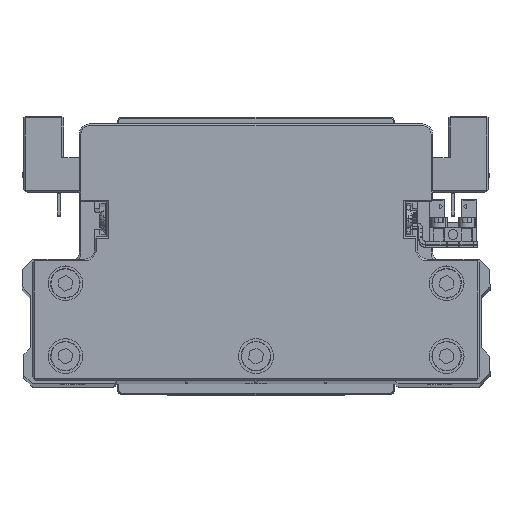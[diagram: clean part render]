
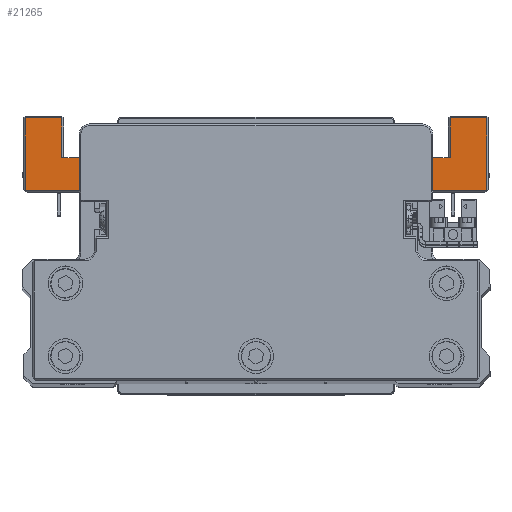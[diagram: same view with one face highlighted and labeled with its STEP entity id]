
A CAD part, top view. The second image highlights one B-rep face of the part: STEP entity #21265.
In plain terms, the highlighted planar face has unit normal (0, 0, 1) as drawn and (0, -1, 0) by its records, which use the part's own axes.
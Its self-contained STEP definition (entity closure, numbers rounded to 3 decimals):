
#23 = DIRECTION ( 'NONE',  ( 0., 0., -1. ) ) ;
#481 = CARTESIAN_POINT ( 'NONE',  ( 46., -45., -54. ) ) ;
#905 = VERTEX_POINT ( 'NONE', #25788 ) ;
#1031 = VERTEX_POINT ( 'NONE', #20502 ) ;
#1232 = CARTESIAN_POINT ( 'NONE',  ( -77.786, -45., -42.5 ) ) ;
#1510 = VECTOR ( 'NONE', #32212, 1000. ) ;
#2100 = DIRECTION ( 'NONE',  ( 0., 1., 0. ) ) ;
#2224 = AXIS2_PLACEMENT_3D ( 'NONE', #30820, #3157, #15468 ) ;
#2385 = LINE ( 'NONE', #14690, #35366 ) ;
#2461 = CARTESIAN_POINT ( 'NONE',  ( -56., -45., -52.5 ) ) ;
#2729 = ORIENTED_EDGE ( 'NONE', *, *, #20763, .T. ) ;
#3029 = EDGE_CURVE ( 'NONE', #36922, #20730, #37058, .T. ) ;
#3157 = DIRECTION ( 'NONE',  ( 0., -1., 0. ) ) ;
#4028 = ORIENTED_EDGE ( 'NONE', *, *, #38772, .T. ) ;
#4515 = DIRECTION ( 'NONE',  ( 0., 1., 0. ) ) ;
#4936 = VERTEX_POINT ( 'NONE', #29328 ) ;
#5325 = EDGE_CURVE ( 'NONE', #18109, #33583, #28894, .T. ) ;
#5372 = LINE ( 'NONE', #17681, #32097 ) ;
#6176 = FACE_OUTER_BOUND ( 'NONE', #31058, .T. ) ;
#6279 = AXIS2_PLACEMENT_3D ( 'NONE', #29762, #2100, #14388 ) ;
#6932 = CARTESIAN_POINT ( 'NONE',  ( 56., -45., -52.5 ) ) ;
#7072 = VECTOR ( 'NONE', #22828, 1000. ) ;
#7320 = CARTESIAN_POINT ( 'NONE',  ( -56., -45., -64. ) ) ;
#7396 = CARTESIAN_POINT ( 'NONE',  ( 39.868, -45., -42.987 ) ) ;
#7482 = ORIENTED_EDGE ( 'NONE', *, *, #36874, .T. ) ;
#7567 = LINE ( 'NONE', #19891, #1510 ) ;
#7620 = VERTEX_POINT ( 'NONE', #20769 ) ;
#8008 = CARTESIAN_POINT ( 'NONE',  ( -39.868, -45., -42.987 ) ) ;
#8042 = EDGE_CURVE ( 'NONE', #1031, #13547, #8192, .T. ) ;
#8076 = EDGE_CURVE ( 'NONE', #35619, #21148, #5372, .T. ) ;
#8192 = LINE ( 'NONE', #20510, #21777 ) ;
#8334 = VECTOR ( 'NONE', #35966, 1000. ) ;
#9386 = CARTESIAN_POINT ( 'NONE',  ( 55.5, -45., -52.5 ) ) ;
#9568 = ORIENTED_EDGE ( 'NONE', *, *, #26212, .T. ) ;
#10367 = EDGE_CURVE ( 'NONE', #36922, #35619, #15359, .T. ) ;
#10493 = CARTESIAN_POINT ( 'NONE',  ( -55.5, -45., -52.5 ) ) ;
#10907 = DIRECTION ( 'NONE',  ( 1., 0., 0. ) ) ;
#11315 = LINE ( 'NONE', #23661, #8334 ) ;
#11321 = CARTESIAN_POINT ( 'NONE',  ( -66.5, -45., -64.5 ) ) ;
#11351 = ORIENTED_EDGE ( 'NONE', *, *, #30056, .T. ) ;
#11921 = ORIENTED_EDGE ( 'NONE', *, *, #3029, .F. ) ;
#12477 = CARTESIAN_POINT ( 'NONE',  ( -39.868, -45., -42.987 ) ) ;
#12786 = DIRECTION ( 'NONE',  ( 1., 0., 0. ) ) ;
#12895 = LINE ( 'NONE', #25239, #37847 ) ;
#13075 = ORIENTED_EDGE ( 'NONE', *, *, #10367, .T. ) ;
#13525 = DIRECTION ( 'NONE',  ( -1., 0., 0. ) ) ;
#13547 = VERTEX_POINT ( 'NONE', #34608 ) ;
#13890 = ORIENTED_EDGE ( 'NONE', *, *, #33421, .T. ) ;
#14388 = DIRECTION ( 'NONE',  ( 0., 0., -1. ) ) ;
#14690 = CARTESIAN_POINT ( 'NONE',  ( 25.802, -45., -41.111 ) ) ;
#14761 = DIRECTION ( 'NONE',  ( 0., 0., 1. ) ) ;
#14903 = LINE ( 'NONE', #27235, #28284 ) ;
#15359 = LINE ( 'NONE', #27690, #30211 ) ;
#15468 = DIRECTION ( 'NONE',  ( 0., 0., -1. ) ) ;
#15649 = ORIENTED_EDGE ( 'NONE', *, *, #8076, .T. ) ;
#16380 = VECTOR ( 'NONE', #23666, 1000. ) ;
#16700 = VERTEX_POINT ( 'NONE', #7396 ) ;
#16827 = DIRECTION ( 'NONE',  ( 0., 0., -1. ) ) ;
#17085 = AXIS2_PLACEMENT_3D ( 'NONE', #32167, #4515, #16827 ) ;
#17681 = CARTESIAN_POINT ( 'NONE',  ( 67., -45., -64. ) ) ;
#18109 = VERTEX_POINT ( 'NONE', #38705 ) ;
#18144 = CARTESIAN_POINT ( 'NONE',  ( -66.5, -45., -43. ) ) ;
#18496 = PLANE ( 'NONE',  #2224 ) ;
#18746 = VECTOR ( 'NONE', #12786, 1000. ) ;
#19400 = ORIENTED_EDGE ( 'NONE', *, *, #21860, .T. ) ;
#19891 = CARTESIAN_POINT ( 'NONE',  ( 66.5, -45., -43.5 ) ) ;
#19962 = CARTESIAN_POINT ( 'NONE',  ( 46., -45., -54. ) ) ;
#20070 = ORIENTED_EDGE ( 'NONE', *, *, #30558, .T. ) ;
#20165 = EDGE_CURVE ( 'NONE', #21148, #905, #7567, .T. ) ;
#20321 = DIRECTION ( 'NONE',  ( -0.991, 0., -0.132 ) ) ;
#20502 = CARTESIAN_POINT ( 'NONE',  ( -46., -45., -54. ) ) ;
#20510 = CARTESIAN_POINT ( 'NONE',  ( -46., -45., -52.5 ) ) ;
#20606 = VERTEX_POINT ( 'NONE', #7320 ) ;
#20730 = VERTEX_POINT ( 'NONE', #38814 ) ;
#20763 = EDGE_CURVE ( 'NONE', #26270, #4936, #38999, .T. ) ;
#20769 = CARTESIAN_POINT ( 'NONE',  ( -40.066, -45., -43. ) ) ;
#21102 = ORIENTED_EDGE ( 'NONE', *, *, #5325, .T. ) ;
#21106 = VERTEX_POINT ( 'NONE', #23562 ) ;
#21148 = VERTEX_POINT ( 'NONE', #30010 ) ;
#21265 = ADVANCED_FACE ( 'NONE', ( #6176 ), #18496, .T. ) ;
#21717 = DIRECTION ( 'NONE',  ( -1., 0., 0. ) ) ;
#21777 = VECTOR ( 'NONE', #32832, 1000. ) ;
#21860 = EDGE_CURVE ( 'NONE', #22590, #7620, #34506, .T. ) ;
#22590 = VERTEX_POINT ( 'NONE', #12477 ) ;
#22828 = DIRECTION ( 'NONE',  ( -1., 0., 0. ) ) ;
#23374 = ORIENTED_EDGE ( 'NONE', *, *, #26248, .F. ) ;
#23436 = ORIENTED_EDGE ( 'NONE', *, *, #8042, .F. ) ;
#23562 = CARTESIAN_POINT ( 'NONE',  ( 40.066, -45., -43. ) ) ;
#23661 = CARTESIAN_POINT ( 'NONE',  ( -66., -45., -43. ) ) ;
#23666 = DIRECTION ( 'NONE',  ( 0., 0., -1. ) ) ;
#23696 = CIRCLE ( 'NONE', #6279, 1.5 ) ;
#23889 = VECTOR ( 'NONE', #20321, 1000. ) ;
#25142 = CARTESIAN_POINT ( 'NONE',  ( 56., -45., -64. ) ) ;
#25236 = EDGE_CURVE ( 'NONE', #21106, #16700, #23696, .T. ) ;
#25239 = CARTESIAN_POINT ( 'NONE',  ( 40.066, -45., -43. ) ) ;
#25554 = ORIENTED_EDGE ( 'NONE', *, *, #29503, .F. ) ;
#25788 = CARTESIAN_POINT ( 'NONE',  ( 66.5, -45., -43. ) ) ;
#26212 = EDGE_CURVE ( 'NONE', #16700, #18109, #2385, .T. ) ;
#26248 = EDGE_CURVE ( 'NONE', #20730, #33573, #14903, .T. ) ;
#26270 = VERTEX_POINT ( 'NONE', #18144 ) ;
#26274 = LINE ( 'NONE', #38579, #36170 ) ;
#27027 = DIRECTION ( 'NONE',  ( -0.991, 0., 0.132 ) ) ;
#27235 = CARTESIAN_POINT ( 'NONE',  ( 46., -45., -52.5 ) ) ;
#27690 = CARTESIAN_POINT ( 'NONE',  ( 56., -45., -64.5 ) ) ;
#28142 = LINE ( 'NONE', #481, #18746 ) ;
#28284 = VECTOR ( 'NONE', #39536, 1000. ) ;
#28894 = LINE ( 'NONE', #1232, #30532 ) ;
#29204 = EDGE_CURVE ( 'NONE', #7620, #26270, #11315, .T. ) ;
#29328 = CARTESIAN_POINT ( 'NONE',  ( -66.5, -45., -64. ) ) ;
#29503 = EDGE_CURVE ( 'NONE', #13547, #34893, #38167, .T. ) ;
#29762 = CARTESIAN_POINT ( 'NONE',  ( 40.066, -45., -41.5 ) ) ;
#29990 = DIRECTION ( 'NONE',  ( 1., 0., 0. ) ) ;
#30010 = CARTESIAN_POINT ( 'NONE',  ( 66.5, -45., -64. ) ) ;
#30056 = EDGE_CURVE ( 'NONE', #33583, #22590, #35675, .T. ) ;
#30112 = LINE ( 'NONE', #2461, #34774 ) ;
#30211 = VECTOR ( 'NONE', #23, 1000. ) ;
#30532 = VECTOR ( 'NONE', #13525, 1000. ) ;
#30545 = ORIENTED_EDGE ( 'NONE', *, *, #20165, .T. ) ;
#30558 = EDGE_CURVE ( 'NONE', #20606, #34893, #30112, .T. ) ;
#30820 = CARTESIAN_POINT ( 'NONE',  ( 0., -45., 0. ) ) ;
#31058 = EDGE_LOOP ( 'NONE', ( #21102, #11351, #19400, #31337, #2729, #4028, #20070, #25554, #23436, #7482, #23374, #11921, #13075, #15649, #30545, #13890, #32141, #9568 ) ) ;
#31337 = ORIENTED_EDGE ( 'NONE', *, *, #29204, .T. ) ;
#32097 = VECTOR ( 'NONE', #29990, 1000. ) ;
#32141 = ORIENTED_EDGE ( 'NONE', *, *, #25236, .T. ) ;
#32167 = CARTESIAN_POINT ( 'NONE',  ( -40.066, -45., -41.5 ) ) ;
#32212 = DIRECTION ( 'NONE',  ( 0., 0., 1. ) ) ;
#32474 = CARTESIAN_POINT ( 'NONE',  ( -56., -45., -52.5 ) ) ;
#32832 = DIRECTION ( 'NONE',  ( 0., 0., 1. ) ) ;
#33421 = EDGE_CURVE ( 'NONE', #905, #21106, #12895, .T. ) ;
#33573 = VERTEX_POINT ( 'NONE', #19962 ) ;
#33583 = VERTEX_POINT ( 'NONE', #38521 ) ;
#34506 = CIRCLE ( 'NONE', #17085, 1.5 ) ;
#34608 = CARTESIAN_POINT ( 'NONE',  ( -46., -45., -52.5 ) ) ;
#34774 = VECTOR ( 'NONE', #14761, 1000. ) ;
#34893 = VERTEX_POINT ( 'NONE', #32474 ) ;
#35366 = VECTOR ( 'NONE', #27027, 1000. ) ;
#35619 = VERTEX_POINT ( 'NONE', #25142 ) ;
#35675 = LINE ( 'NONE', #8008, #23889 ) ;
#35966 = DIRECTION ( 'NONE',  ( -1., 0., 0. ) ) ;
#36170 = VECTOR ( 'NONE', #10907, 1000. ) ;
#36874 = EDGE_CURVE ( 'NONE', #1031, #33573, #28142, .T. ) ;
#36922 = VERTEX_POINT ( 'NONE', #6932 ) ;
#37058 = LINE ( 'NONE', #9386, #38119 ) ;
#37541 = DIRECTION ( 'NONE',  ( -1., 0., 0. ) ) ;
#37847 = VECTOR ( 'NONE', #37541, 1000. ) ;
#38119 = VECTOR ( 'NONE', #21717, 1000. ) ;
#38167 = LINE ( 'NONE', #10493, #7072 ) ;
#38521 = CARTESIAN_POINT ( 'NONE',  ( -36.217, -45., -42.5 ) ) ;
#38579 = CARTESIAN_POINT ( 'NONE',  ( -55.5, -45., -64. ) ) ;
#38705 = CARTESIAN_POINT ( 'NONE',  ( 36.217, -45., -42.5 ) ) ;
#38772 = EDGE_CURVE ( 'NONE', #4936, #20606, #26274, .T. ) ;
#38814 = CARTESIAN_POINT ( 'NONE',  ( 46., -45., -52.5 ) ) ;
#38999 = LINE ( 'NONE', #11321, #16380 ) ;
#39536 = DIRECTION ( 'NONE',  ( 0., 0., -1. ) ) ;
